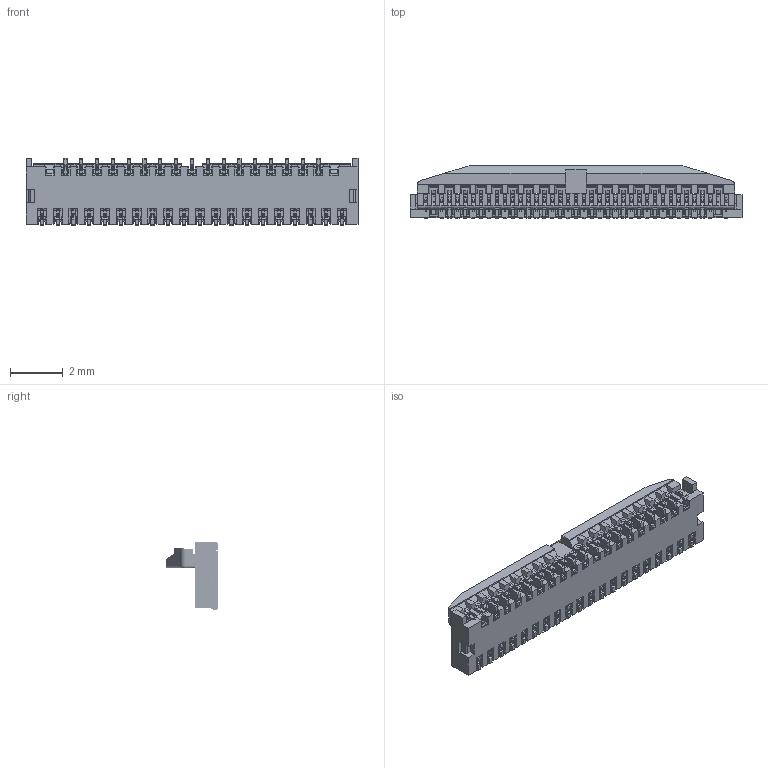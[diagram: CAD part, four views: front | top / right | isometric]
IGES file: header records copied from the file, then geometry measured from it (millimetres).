
Start section: SolidWorks IGES file using analytic representation for surfaces
Global section: file name: C:\3dworks\takei\MINIFLEX3-BFN 3Dƒ‚ƒfƒ‹_150220\20584-035ExC ASS'Y ACT OPEN IGES R3 ALL.IGS; native system: SolidWorks 2012; preprocessor: SolidWorks 2012; author: ieng2-004; date: 150220.163336; units: millimetre
Bounding box: 12.6 x 2 x 2.55 mm (x, y, z)
Surface area: 269.3 mm2 (no closed solid volume)
Topology: 0 solids, 0 shells, 4768 faces, 31716 edges, 31714 vertices
Faces by surface type: bspline 3565, revolution 1203
